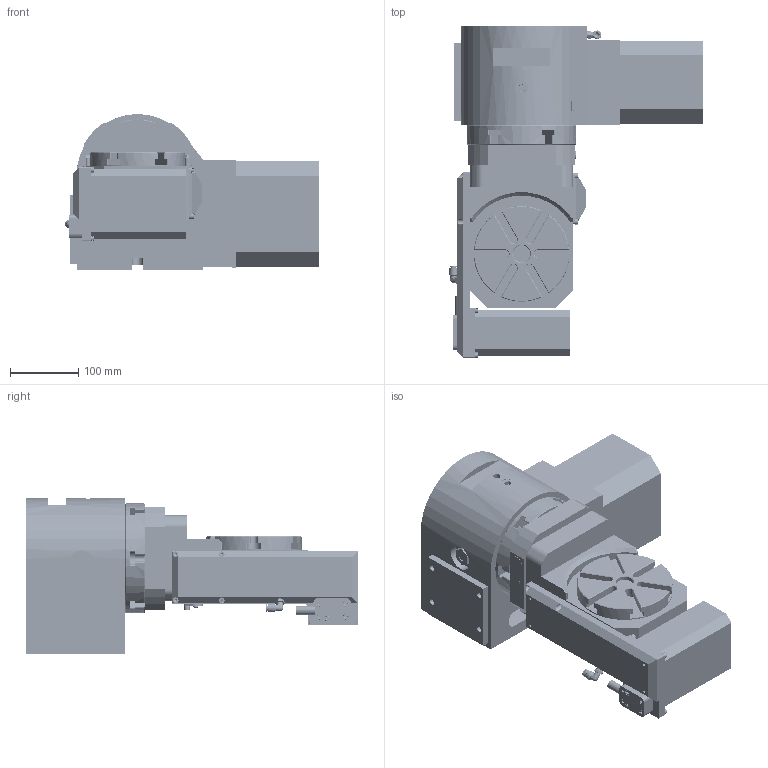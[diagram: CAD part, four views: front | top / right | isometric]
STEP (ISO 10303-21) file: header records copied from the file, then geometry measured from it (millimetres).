
FILE_DESCRIPTION(/* description */ ('','CAx-IF Rec.Pracs.---Representation and Presentation of Product Manufacturing Information (PMI)---4.0---2014-10-13'),/* implementation_level */ '2;1');
FILE_NAME(/* name */ 'TRT-140 v3.step',/* time_stamp */ '2025-03-03T14:13:00-08:00',/* author */ (''),/* organization */ (''),/* preprocessor_version */ 'ST-DEVELOPER v20',/* originating_system */ 'Autodesk Translation Framework v13.20.0.188',/* authorisation */ '');
FILE_SCHEMA (('AP242_MANAGED_MODEL_BASED_3D_ENGINEERING_MIM_LF { 1 0 10303 442 1 1 4 }'));
Products named in the file (45): TRT-140; VH-6; VH-6_1; VH160RH1; Spindle Bearing; VH160RS1; VH160BP1; VH160WG1; 3277K14; Motor Block; 1072A23; 44605K234; VH160WCP1; TR-140; VH160RH1_1; VH160RH1_1_1; 31023004 - 31023004A; 31023004 - 31023004A_1; Back Plate; Component2; 91251A537_Black-Oxide Alloy Steel Socket Head Screw; Motor Mount Long; Component2_1; Cable Block; Component1; Component2_2; 91251A342_Black-Oxide Alloy Steel Socket Head Screw; Cover; Component2_3; 51495K214_Nickel-Plated Brass Push-to-Connect Tube Fitting; UPSP1; Component2_4; Component3; 9452K16_Oil-Resistant Buna-N O-Ring; 91251A342_Black-Oxide Alloy Steel Socket Head Screw_1; D_PS20F; D_RL96A-60100; Side Cover; Component1_1; 91251A342_Black-Oxide Alloy Steel Socket Head Screw_2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
Assembly tree (66 placements, depth 4):
  TRT-140
    VH-6
      VH-6_1
        VH160RH1
        Spindle Bearing
        VH160RS1
        VH160BP1
        VH160WG1
        3277K14
        Motor Block
        1072A23
        44605K234
      VH160WCP1
      51495K214_Nickel-Plated Brass Push-to-Connect Tube Fitting
    TR-140
      VH160RH1_1
        VH160RH1_1_1
      31023004 - 31023004A
        31023004 - 31023004A_1
      Back Plate
        Component2
        91251A342_Black-Oxide Alloy Steel Socket Head Screw_1  x6
        91251A537_Black-Oxide Alloy Steel Socket Head Screw  x4
      Motor Mount Long
        Component2_1
      Cable Block
        Component1
        Component2_2
        91251A342_Black-Oxide Alloy Steel Socket Head Screw  x6
      Cover
        Component2_3
        91251A342_Black-Oxide Alloy Steel Socket Head Screw_1  x4
      51495K214_Nickel-Plated Brass Push-to-Connect Tube Fitting
      UPSP1
        Component2_4
        Component3
        9452K16_Oil-Resistant Buna-N O-Ring
        91251A342_Black-Oxide Alloy Steel Socket Head Screw_1
      D_PS20F  x4
      D_RL96A-60100
      Side Cover
        Component1_1
        91251A342_Black-Oxide Alloy Steel Socket Head Screw_2
        91251A342_Black-Oxide Alloy Steel Socket Head Screw_3
        91251A342_Black-Oxide Alloy Steel Socket Head Screw_4
        91251A342_Black-Oxide Alloy Steel Socket Head Screw_5
    Teknic v2
      Component2_5
Bounding box: 371.13 x 484.86 x 227.33 mm (x, y, z)
Volume: 9670480.7 mm3; surface area: 1475780 mm2
Topology: 87 solids, 87 shells, 11336 faces, 28610 edges, 18994 vertices
Faces by surface type: plane 6342, cone 2799, cylinder 1874, bspline 233, torus 84, sphere 4
Full cylindrical faces by diameter (mm): 2.261 x4, 2.845 x1, 3.175 x1, 3.3 x2, 3.795 x21, 3.823 x4, 4 x4, 4.064 x31, 4.067 x24, 4.7 x4, 4.762 x1, 5.105 x18, 5.116 x6, 5.118 x4, 5.182 x2, 5.207 x4, 5.309 x8, 5.334 x24, 5.397 x1, 5.842 x2, 6.35 x4, 6.528 x14, 7.376 x2, 7.62 x2, 7.938 x22, 7.94 x6, 8.026 x1, 8.255 x12, 8.331 x10, 8.5 x4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
Entity records: 168883 total; most frequent: CARTESIAN_POINT 55757, DIRECTION 23281, ORIENTED_EDGE 22804, EDGE_CURVE 11402, AXIS2_PLACEMENT_3D 8094, VERTEX_POINT 7559, LINE 7093, VECTOR 7093
